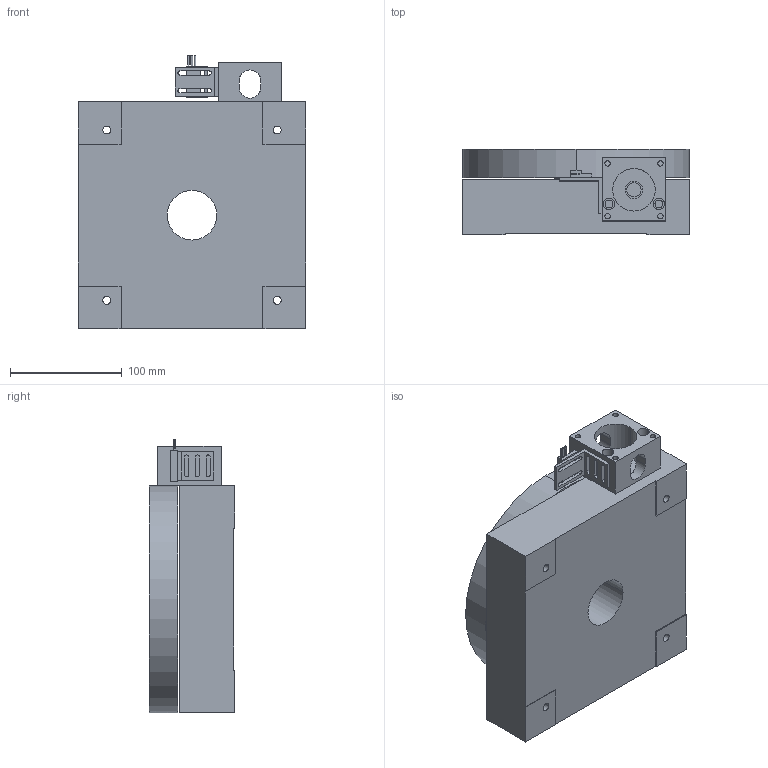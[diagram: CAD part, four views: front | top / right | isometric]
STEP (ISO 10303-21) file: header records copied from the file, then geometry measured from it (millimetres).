
FILE_DESCRIPTION((''),'2;1');
FILE_NAME('E208-ROTARY-T3_ASM','2005-02-18T',('BF20108'),(''),'PRO/ENGINEER BY PARAMETRIC TECHNOLOGY CORPORATION, 2004400','PRO/ENGINEER BY PARAMETRIC TECHNOLOGY CORPORATION, 2004400','');
FILE_SCHEMA(('CONFIG_CONTROL_DESIGN'));
Products named in the file (7): E8RO-BASE; E8RO-TOP-1-THK; E-0176-01; 000-4457-SW-BRKT; 003-1145-SWITCH; ROTARY-TBL-HOME-SW_ASM; E208-ROTARY-T3_ASM
Assembly tree (6 placements, depth 3):
  E208-ROTARY-T3_ASM
    E8RO-BASE
    E8RO-TOP-1-THK
    E-0176-01
    ROTARY-TBL-HOME-SW_ASM
      000-4457-SW-BRKT
      003-1145-SWITCH
Bounding box: 203.2 x 76.2 x 244.69 mm (x, y, z)
Volume: 2749899.8 mm3; surface area: 244977.2 mm2
Topology: 5 solids, 5 shells, 158 faces, 415 edges, 276 vertices
Faces by surface type: cylinder 86, plane 72
Entity records: 5332 total; most frequent: CARTESIAN_POINT 964, DIRECTION 919, ORIENTED_EDGE 830, EDGE_CURVE 415, AXIS2_PLACEMENT_3D 341, VERTEX_POINT 276, VECTOR 237, LINE 237
